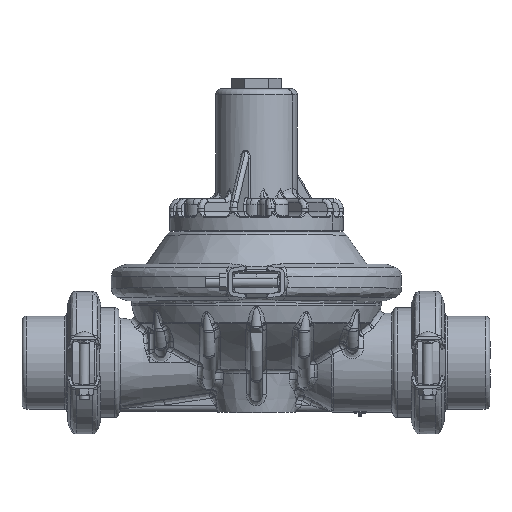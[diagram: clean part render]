
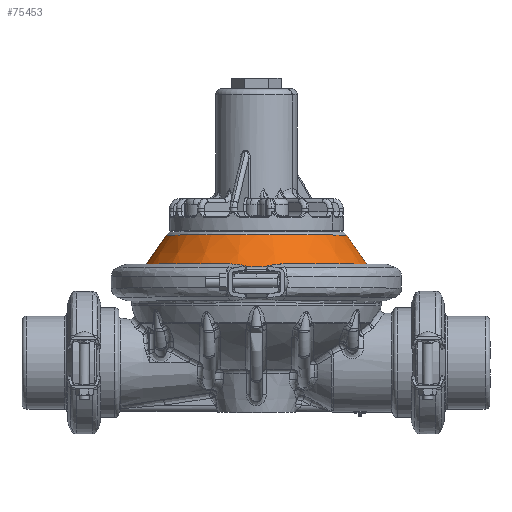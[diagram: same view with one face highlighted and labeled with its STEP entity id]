
A CAD part, top view. The second image highlights one B-rep face of the part: STEP entity #75453.
In plain terms, the highlighted conical face has half-angle 34.678 degrees and reference radius 84.072 mm.
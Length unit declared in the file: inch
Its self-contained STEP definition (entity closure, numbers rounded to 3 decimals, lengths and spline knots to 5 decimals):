
#2267 = CARTESIAN_POINT ( 'NONE',  ( 0., 2.93953, 0. ) ) ;
#7766 = CARTESIAN_POINT ( 'NONE',  ( 0., 4.10621, 0. ) ) ;
#14955 = DIRECTION ( 'NONE',  ( 0., -1., 0. ) ) ;
#16505 = VERTEX_POINT ( 'NONE', #49693 ) ;
#18021 = DIRECTION ( 'NONE',  ( 0.569, -0.822, 0. ) ) ;
#19946 = VECTOR ( 'NONE', #18021, 39.37008 ) ;
#23397 = DIRECTION ( 'NONE',  ( -0.569, -0.822, 0. ) ) ;
#25849 = EDGE_CURVE ( 'NONE', #141530, #16505, #65820, .T. ) ;
#25907 = VERTEX_POINT ( 'NONE', #102531 ) ;
#28809 = EDGE_CURVE ( 'NONE', #25907, #141530, #133695, .T. ) ;
#30141 = CIRCLE ( 'NONE', #55312, 2.90632 ) ;
#34413 = CARTESIAN_POINT ( 'NONE',  ( 2.90632, 4.10621, 0. ) ) ;
#38580 = FACE_OUTER_BOUND ( 'NONE', #58748, .T. ) ;
#39058 = ORIENTED_EDGE ( 'NONE', *, *, #28809, .T. ) ;
#43073 = ORIENTED_EDGE ( 'NONE', *, *, #25849, .T. ) ;
#43212 = VECTOR ( 'NONE', #23397, 39.37008 ) ;
#48205 = AXIS2_PLACEMENT_3D ( 'NONE', #82294, #14955, #125974 ) ;
#49693 = CARTESIAN_POINT ( 'NONE',  ( 3.7135, 2.93953, 0. ) ) ;
#55312 = AXIS2_PLACEMENT_3D ( 'NONE', #7766, #95847, #95145 ) ;
#58748 = EDGE_LOOP ( 'NONE', ( #43073, #76409, #65502, #39058 ) ) ;
#65502 = ORIENTED_EDGE ( 'NONE', *, *, #70940, .F. ) ;
#65820 = CIRCLE ( 'NONE', #141374, 3.7135 ) ;
#67482 = DIRECTION ( 'NONE',  ( 0., 1., 0. ) ) ;
#70940 = EDGE_CURVE ( 'NONE', #25907, #92886, #30141, .T. ) ;
#75453 = ADVANCED_FACE ( 'NONE', ( #38580 ), #109983, .T. ) ;
#76409 = ORIENTED_EDGE ( 'NONE', *, *, #106933, .F. ) ;
#82294 = CARTESIAN_POINT ( 'NONE',  ( 0., 3.52287, 0. ) ) ;
#89656 = DIRECTION ( 'NONE',  ( -1., 0., 0. ) ) ;
#92886 = VERTEX_POINT ( 'NONE', #34413 ) ;
#95145 = DIRECTION ( 'NONE',  ( -1., 0., 0. ) ) ;
#95847 = DIRECTION ( 'NONE',  ( 0., 1., 0. ) ) ;
#102531 = CARTESIAN_POINT ( 'NONE',  ( -2.90632, 4.10621, 0. ) ) ;
#106933 = EDGE_CURVE ( 'NONE', #92886, #16505, #116181, .T. ) ;
#109983 = CONICAL_SURFACE ( 'NONE', #48205, 3.30991, 0.605 ) ;
#116181 = LINE ( 'NONE', #128325, #19946 ) ;
#125974 = DIRECTION ( 'NONE',  ( -1., 0., 0. ) ) ;
#128325 = CARTESIAN_POINT ( 'NONE',  ( 2.90632, 4.10621, 0. ) ) ;
#132297 = CARTESIAN_POINT ( 'NONE',  ( -2.90632, 4.10621, 0. ) ) ;
#133695 = LINE ( 'NONE', #132297, #43212 ) ;
#136183 = CARTESIAN_POINT ( 'NONE',  ( -3.7135, 2.93953, 0. ) ) ;
#141374 = AXIS2_PLACEMENT_3D ( 'NONE', #2267, #67482, #89656 ) ;
#141530 = VERTEX_POINT ( 'NONE', #136183 ) ;
